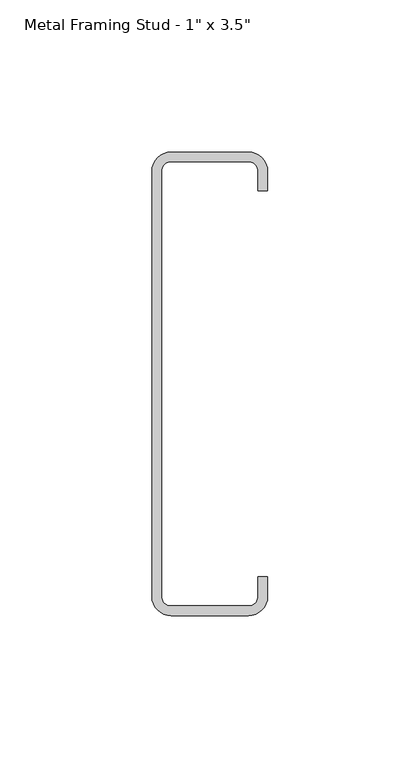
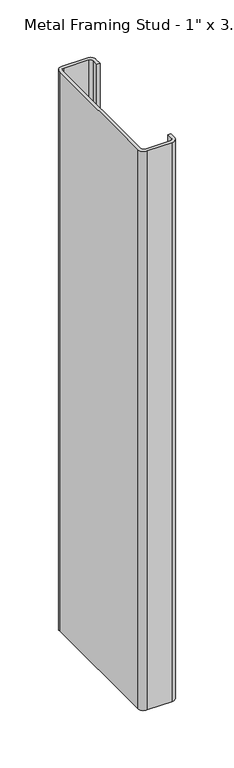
"""IFC4 building model written with IfcOpenShell, lengths in millimetres: proxy geometry."""

from ifc_helpers import new_model, si_unit, point, frame_2d, origin, origin_with_axes, place, context, project, spatial, polyline, circle_curve, trimmed, segment, composite_curve, outline, extrude, source, transform, mapped, element, save


def proxy_d4c17246(model_context):
    return source(origin(), model_context, "Body", "SweptSolid", [
        extrude(outline(composite_curve([segment(polyline([(19.05, 63.5), (15.875, 63.5), (15.875, 70.2679713)]), True, "CONTINUOUS"), segment(trimmed(circle_curve(frame_2d((12.7, 69.85)), 3.2023936), [point((15.875, 70.2679713))], [point((13.1179713, 73.025))], True, "CARTESIAN"), True, "CONTINUOUS"), segment(polyline([(13.1179713, 73.025), (-13.1179713, 73.025)]), True, "CONTINUOUS"), segment(trimmed(circle_curve(frame_2d((-12.7, 69.85)), 3.2023936), [point((-13.1179713, 73.025))], [point((-15.875, 70.2679713))], True, "CARTESIAN"), True, "CONTINUOUS"), segment(polyline([(-15.875, 70.2679713), (-15.875, -70.2679713)]), True, "CONTINUOUS"), segment(trimmed(circle_curve(frame_2d((-12.7, -69.85)), 3.2023936), [point((-15.875, -70.2679713))], [point((-13.1179713, -73.025))], True, "CARTESIAN"), True, "CONTINUOUS"), segment(polyline([(-13.1179713, -73.025), (13.1179713, -73.025)]), True, "CONTINUOUS"), segment(trimmed(circle_curve(frame_2d((12.7, -69.85)), 3.2023936), [point((13.1179713, -73.025))], [point((15.875, -70.2679713))], True, "CARTESIAN"), True, "CONTINUOUS"), segment(polyline([(15.875, -70.2679713), (15.875, -63.5), (19.05, -63.5), (19.05, -69.85)]), True, "CONTINUOUS"), segment(trimmed(circle_curve(frame_2d((12.7, -69.85)), 6.35), [point((19.05, -69.85))], [point((12.7, -76.2))], False, "CARTESIAN"), True, "CONTINUOUS"), segment(polyline([(12.7, -76.2), (-12.7, -76.2)]), True, "CONTINUOUS"), segment(trimmed(circle_curve(frame_2d((-12.7, -69.85)), 6.35), [point((-12.7, -76.2))], [point((-19.05, -69.85))], False, "CARTESIAN"), True, "CONTINUOUS"), segment(polyline([(-19.05, -69.85), (-19.05, 69.85)]), True, "CONTINUOUS"), segment(trimmed(circle_curve(frame_2d((-12.7, 69.85)), 6.35), [point((-19.05, 69.85))], [point((-12.7, 76.2))], False, "CARTESIAN"), True, "CONTINUOUS"), segment(polyline([(-12.7, 76.2), (12.7, 76.2)]), True, "CONTINUOUS"), segment(trimmed(circle_curve(frame_2d((12.7, 69.85)), 6.35), [point((12.7, 76.2))], [point((19.05, 69.85))], False, "CARTESIAN"), True, "CONTINUOUS"), segment(polyline([(19.05, 69.85), (19.05, 63.5)]), True, "CONTINUOUS")], self_intersect=False)), origin_with_axes(), (0.0, 0.0, 1.0), 609.6),
    ])


if __name__ == "__main__":
    model = new_model("IFC4")
    model_context = context("Model", 3, world=origin())
    ifc_project = project(units=[si_unit("LENGTHUNIT", "METRE", prefix="MILLI")], contexts=[model_context])
    site = spatial("IfcSite", under=ifc_project)
    building = spatial("IfcBuilding", under=site)
    placement = place(None, origin())
    proxy_shape = proxy_d4c17246(model_context)
    element("IfcBuildingElementProxy", 1, Name="CRAi Generic Model Metal Stud : Metal Framing Stud - 1\" x 3.5\"", ObjectType="CRAi Generic Model Metal Stud : Metal Framing Stud - 1\" x 3.5\"", at=placement, inside=building, context=model_context, shape_type="MappedRepresentation", body=[
        mapped(proxy_shape, transform((0.0, 0.0, 0.0), x_axis=(1.0, 0.0, 0.0), y_axis=(0.0, 1.0, 0.0), z_axis=(0.0, 0.0, 1.0))),
    ])
    save(model, "model.ifc")
